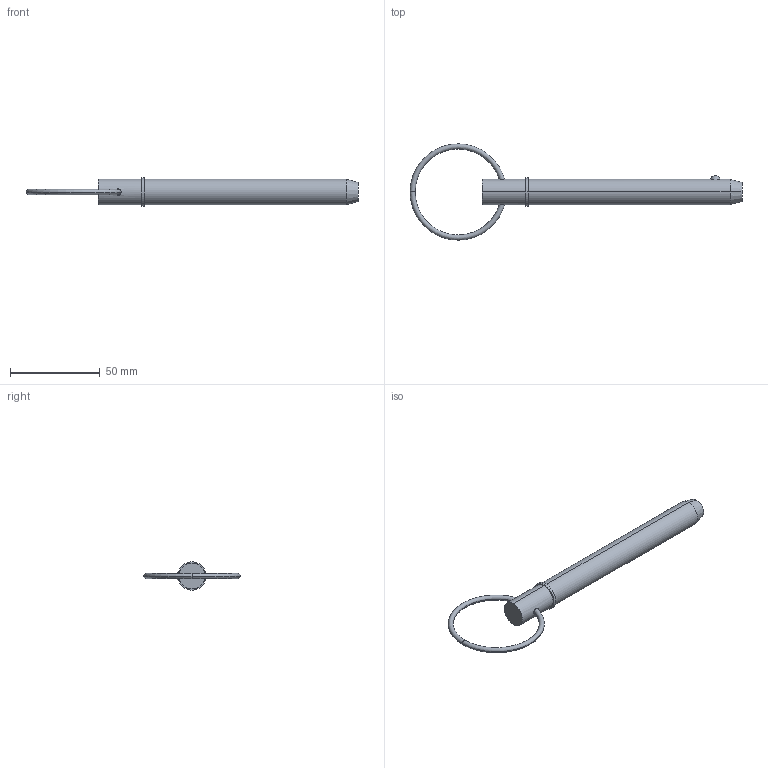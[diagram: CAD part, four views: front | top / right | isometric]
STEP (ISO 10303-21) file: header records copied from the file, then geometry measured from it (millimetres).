
FILE_DESCRIPTION (( 'STEP AP203' ), '1' );
FILE_NAME ('33016.W5640.step', '2024-11-07T11:11:18', ( '' ), ( '' ), 'SwSTEP 2.0', 'SolidWorks 2019', '' );
FILE_SCHEMA (( 'CONFIG_CONTROL_DESIGN' ));
Length unit declared in the file: millimetre
Products named in the file (3): Part2_33016.W5640; Part1_33016.W5640; 33016.W5640
Assembly tree (2 placements, depth 2):
  33016.W5640
    Part1_33016.W5640
    Part2_33016.W5640
Bounding box: 184.96 x 53.66 x 15.72 mm (x, y, z)
Volume: 23927.5 mm3; surface area: 8382.4 mm2
Topology: 2 solids, 2 shells, 22 faces, 43 edges, 26 vertices
Faces by surface type: torus 8, cylinder 6, plane 4, sphere 2, cone 2
Entity records: 1039 total; most frequent: CARTESIAN_POINT 262, DIRECTION 120, ORIENTED_EDGE 86, AXIS2_PLACEMENT_3D 56, EDGE_CURVE 43, CIRCLE 29, EDGE_LOOP 27, PERSON_AND_ORGANIZATION 26
